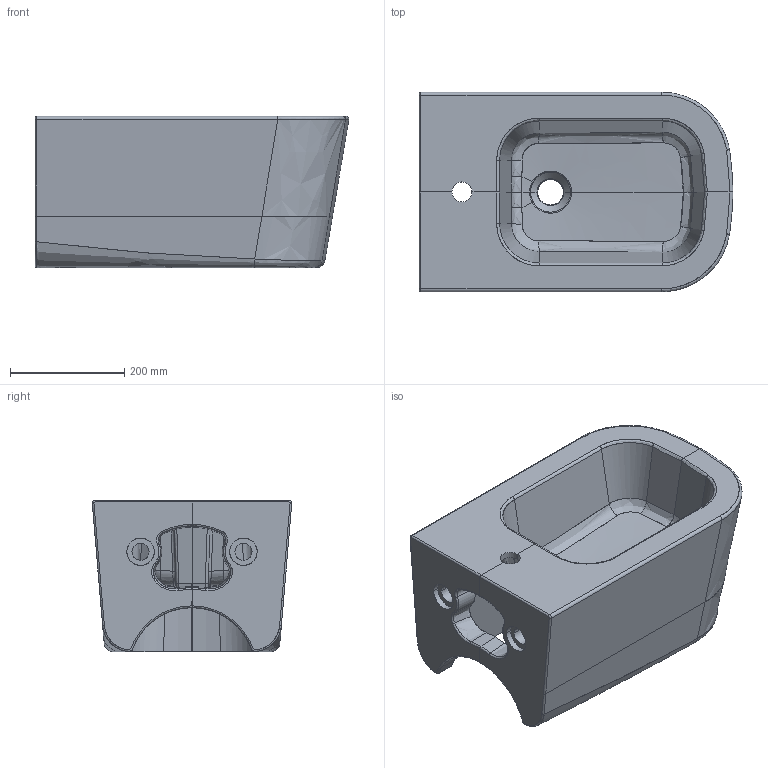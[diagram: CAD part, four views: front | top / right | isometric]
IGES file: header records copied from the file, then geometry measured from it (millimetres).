
Start section: START RECORD GO HERE.
Global section: file name: 5412.igs; native system: DASSAULT SYSTEMES CATIA V5 R19 - www.3ds.com; preprocessor: CATIA Version 5 Release 19 SP 5 ; author: gioge; organization: LAPTOP-G94B6G74; date: 20200630.121446; units: millimetre
Bounding box: 549.08 x 349.1 x 265 mm (x, y, z)
Surface area: 1060757.3 mm2 (no closed solid volume)
Topology: 0 solids, 0 shells, 248 faces, 1195 edges, 1184 vertices
Faces by surface type: bspline 172, revolution 52, plane 24
